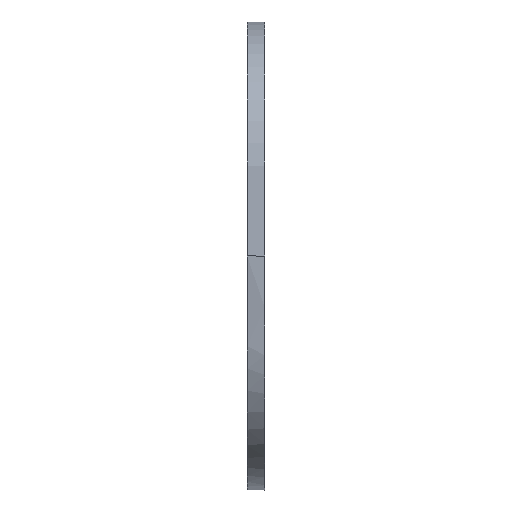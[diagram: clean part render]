
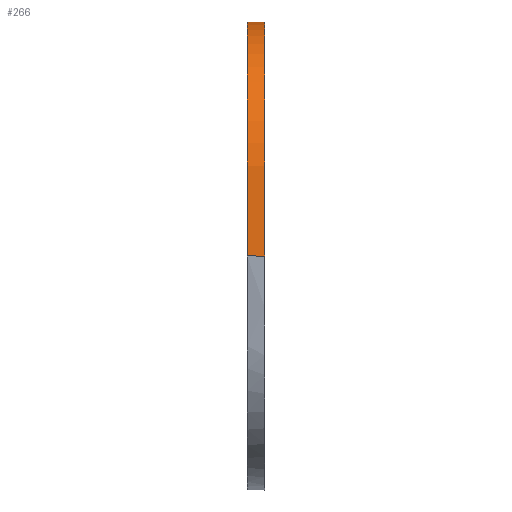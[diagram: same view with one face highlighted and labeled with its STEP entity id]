
A CAD part, left-side view. The second image highlights one B-rep face of the part: STEP entity #266.
In plain terms, the highlighted free-form (B-spline) face has degree [3, 1] with [19, 2] control points.
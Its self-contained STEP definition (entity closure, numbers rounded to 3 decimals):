
#31=B_SPLINE_CURVE_WITH_KNOTS('',3,(#424,#425,#426,#427,#428,#429,#430,
#431,#432,#433,#434,#435,#436,#437,#438,#439,#440,#441,#442),
 .UNSPECIFIED.,.F.,.F.,(4,3,3,3,3,3,4),(-1.,-0.874,-0.691,
-0.522,-0.357,-0.186,0.),
 .UNSPECIFIED.);
#32=B_SPLINE_CURVE_WITH_KNOTS('',3,(#446,#447,#448,#449,#450,#451,#452,
#453,#454,#455,#456,#457,#458,#459,#460,#461,#462,#463,#464),
 .UNSPECIFIED.,.F.,.F.,(4,3,3,3,3,3,4),(-1.,-0.874,-0.691,
-0.522,-0.357,-0.186,0.),
 .UNSPECIFIED.);
#39=B_SPLINE_SURFACE_WITH_KNOTS('',3,1,((#384,#385),(#386,#387),(#388,#389),
(#390,#391),(#392,#393),(#394,#395),(#396,#397),(#398,#399),(#400,#401),
(#402,#403),(#404,#405),(#406,#407),(#408,#409),(#410,#411),(#412,#413),
(#414,#415),(#416,#417),(#418,#419),(#420,#421)),.UNSPECIFIED.,.F.,.F.,
 .F.,(4,3,3,3,3,3,4),(2,2),(-1.,-0.874,-0.691,-0.522,
-0.357,-0.186,0.),(0.,0.3),
 .UNSPECIFIED.);
#44=FACE_OUTER_BOUND('',#58,.T.);
#58=EDGE_LOOP('',(#191,#192,#193,#194));
#84=LINE('',#444,#100);
#85=LINE('',#465,#101);
#100=VECTOR('',#324,10.);
#101=VECTOR('',#325,10.);
#129=VERTEX_POINT('',#422);
#130=VERTEX_POINT('',#423);
#131=VERTEX_POINT('',#443);
#132=VERTEX_POINT('',#445);
#154=EDGE_CURVE('',#129,#130,#31,.T.);
#155=EDGE_CURVE('',#129,#131,#84,.T.);
#156=EDGE_CURVE('',#131,#132,#32,.T.);
#157=EDGE_CURVE('',#130,#132,#85,.T.);
#191=ORIENTED_EDGE('',*,*,#154,.F.);
#192=ORIENTED_EDGE('',*,*,#155,.T.);
#193=ORIENTED_EDGE('',*,*,#156,.T.);
#194=ORIENTED_EDGE('',*,*,#157,.F.);
#266=ADVANCED_FACE('',(#44),#39,.F.);
#324=DIRECTION('',(0.,-1.,0.));
#325=DIRECTION('',(0.,-1.,0.));
#384=CARTESIAN_POINT('Ctrl Pts',(-134.5,88.4,-23.5));
#385=CARTESIAN_POINT('Ctrl Pts',(-134.5,85.4,-23.5));
#386=CARTESIAN_POINT('Ctrl Pts',(-134.5,88.4,-20.342));
#387=CARTESIAN_POINT('Ctrl Pts',(-134.5,85.4,-20.342));
#388=CARTESIAN_POINT('Ctrl Pts',(-134.499,88.4,-17.422));
#389=CARTESIAN_POINT('Ctrl Pts',(-134.499,85.4,-17.422));
#390=CARTESIAN_POINT('Ctrl Pts',(-134.354,88.4,-14.603));
#391=CARTESIAN_POINT('Ctrl Pts',(-134.354,85.4,-14.603));
#392=CARTESIAN_POINT('Ctrl Pts',(-134.145,88.4,-10.517));
#393=CARTESIAN_POINT('Ctrl Pts',(-134.145,85.4,-10.517));
#394=CARTESIAN_POINT('Ctrl Pts',(-133.632,88.4,-6.615));
#395=CARTESIAN_POINT('Ctrl Pts',(-133.632,85.4,-6.615));
#396=CARTESIAN_POINT('Ctrl Pts',(-132.404,88.4,-2.883));
#397=CARTESIAN_POINT('Ctrl Pts',(-132.404,85.4,-2.883));
#398=CARTESIAN_POINT('Ctrl Pts',(-131.271,88.4,0.558));
#399=CARTESIAN_POINT('Ctrl Pts',(-131.271,85.4,0.558));
#400=CARTESIAN_POINT('Ctrl Pts',(-129.493,88.4,3.838));
#401=CARTESIAN_POINT('Ctrl Pts',(-129.493,85.4,3.838));
#402=CARTESIAN_POINT('Ctrl Pts',(-127.055,88.4,6.573));
#403=CARTESIAN_POINT('Ctrl Pts',(-127.055,85.4,6.573));
#404=CARTESIAN_POINT('Ctrl Pts',(-124.687,88.4,9.23));
#405=CARTESIAN_POINT('Ctrl Pts',(-124.687,85.4,9.23));
#406=CARTESIAN_POINT('Ctrl Pts',(-121.712,88.4,11.343));
#407=CARTESIAN_POINT('Ctrl Pts',(-121.712,85.4,11.343));
#408=CARTESIAN_POINT('Ctrl Pts',(-118.494,88.4,12.79));
#409=CARTESIAN_POINT('Ctrl Pts',(-118.494,85.4,12.79));
#410=CARTESIAN_POINT('Ctrl Pts',(-115.132,88.4,14.302));
#411=CARTESIAN_POINT('Ctrl Pts',(-115.132,85.4,14.302));
#412=CARTESIAN_POINT('Ctrl Pts',(-111.532,88.4,15.119));
#413=CARTESIAN_POINT('Ctrl Pts',(-111.532,85.4,15.119));
#414=CARTESIAN_POINT('Ctrl Pts',(-107.826,88.4,15.54));
#415=CARTESIAN_POINT('Ctrl Pts',(-107.826,85.4,15.54));
#416=CARTESIAN_POINT('Ctrl Pts',(-103.802,88.4,15.997));
#417=CARTESIAN_POINT('Ctrl Pts',(-103.802,85.4,15.997));
#418=CARTESIAN_POINT('Ctrl Pts',(-99.65,88.4,16.));
#419=CARTESIAN_POINT('Ctrl Pts',(-99.65,85.4,16.));
#420=CARTESIAN_POINT('Ctrl Pts',(-95.,88.4,16.));
#421=CARTESIAN_POINT('Ctrl Pts',(-95.,85.4,16.));
#422=CARTESIAN_POINT('',(-134.5,88.4,-23.5));
#423=CARTESIAN_POINT('',(-95.,88.4,16.));
#424=CARTESIAN_POINT('Ctrl Pts',(-134.5,88.4,-23.5));
#425=CARTESIAN_POINT('Ctrl Pts',(-134.5,88.4,-20.342));
#426=CARTESIAN_POINT('Ctrl Pts',(-134.499,88.4,-17.422));
#427=CARTESIAN_POINT('Ctrl Pts',(-134.354,88.4,-14.603));
#428=CARTESIAN_POINT('Ctrl Pts',(-134.145,88.4,-10.517));
#429=CARTESIAN_POINT('Ctrl Pts',(-133.632,88.4,-6.615));
#430=CARTESIAN_POINT('Ctrl Pts',(-132.404,88.4,-2.883));
#431=CARTESIAN_POINT('Ctrl Pts',(-131.271,88.4,0.558));
#432=CARTESIAN_POINT('Ctrl Pts',(-129.493,88.4,3.838));
#433=CARTESIAN_POINT('Ctrl Pts',(-127.055,88.4,6.573));
#434=CARTESIAN_POINT('Ctrl Pts',(-124.687,88.4,9.23));
#435=CARTESIAN_POINT('Ctrl Pts',(-121.712,88.4,11.343));
#436=CARTESIAN_POINT('Ctrl Pts',(-118.494,88.4,12.79));
#437=CARTESIAN_POINT('Ctrl Pts',(-115.132,88.4,14.302));
#438=CARTESIAN_POINT('Ctrl Pts',(-111.532,88.4,15.119));
#439=CARTESIAN_POINT('Ctrl Pts',(-107.826,88.4,15.54));
#440=CARTESIAN_POINT('Ctrl Pts',(-103.802,88.4,15.997));
#441=CARTESIAN_POINT('Ctrl Pts',(-99.65,88.4,16.));
#442=CARTESIAN_POINT('Ctrl Pts',(-95.,88.4,16.));
#443=CARTESIAN_POINT('',(-134.5,85.4,-23.5));
#444=CARTESIAN_POINT('',(-134.5,88.4,-23.5));
#445=CARTESIAN_POINT('',(-95.,85.4,16.));
#446=CARTESIAN_POINT('Ctrl Pts',(-134.5,85.4,-23.5));
#447=CARTESIAN_POINT('Ctrl Pts',(-134.5,85.4,-20.342));
#448=CARTESIAN_POINT('Ctrl Pts',(-134.499,85.4,-17.422));
#449=CARTESIAN_POINT('Ctrl Pts',(-134.354,85.4,-14.603));
#450=CARTESIAN_POINT('Ctrl Pts',(-134.145,85.4,-10.517));
#451=CARTESIAN_POINT('Ctrl Pts',(-133.632,85.4,-6.615));
#452=CARTESIAN_POINT('Ctrl Pts',(-132.404,85.4,-2.883));
#453=CARTESIAN_POINT('Ctrl Pts',(-131.271,85.4,0.558));
#454=CARTESIAN_POINT('Ctrl Pts',(-129.493,85.4,3.838));
#455=CARTESIAN_POINT('Ctrl Pts',(-127.055,85.4,6.573));
#456=CARTESIAN_POINT('Ctrl Pts',(-124.687,85.4,9.23));
#457=CARTESIAN_POINT('Ctrl Pts',(-121.712,85.4,11.343));
#458=CARTESIAN_POINT('Ctrl Pts',(-118.494,85.4,12.79));
#459=CARTESIAN_POINT('Ctrl Pts',(-115.132,85.4,14.302));
#460=CARTESIAN_POINT('Ctrl Pts',(-111.532,85.4,15.119));
#461=CARTESIAN_POINT('Ctrl Pts',(-107.826,85.4,15.54));
#462=CARTESIAN_POINT('Ctrl Pts',(-103.802,85.4,15.997));
#463=CARTESIAN_POINT('Ctrl Pts',(-99.65,85.4,16.));
#464=CARTESIAN_POINT('Ctrl Pts',(-95.,85.4,16.));
#465=CARTESIAN_POINT('',(-95.,88.4,16.));
